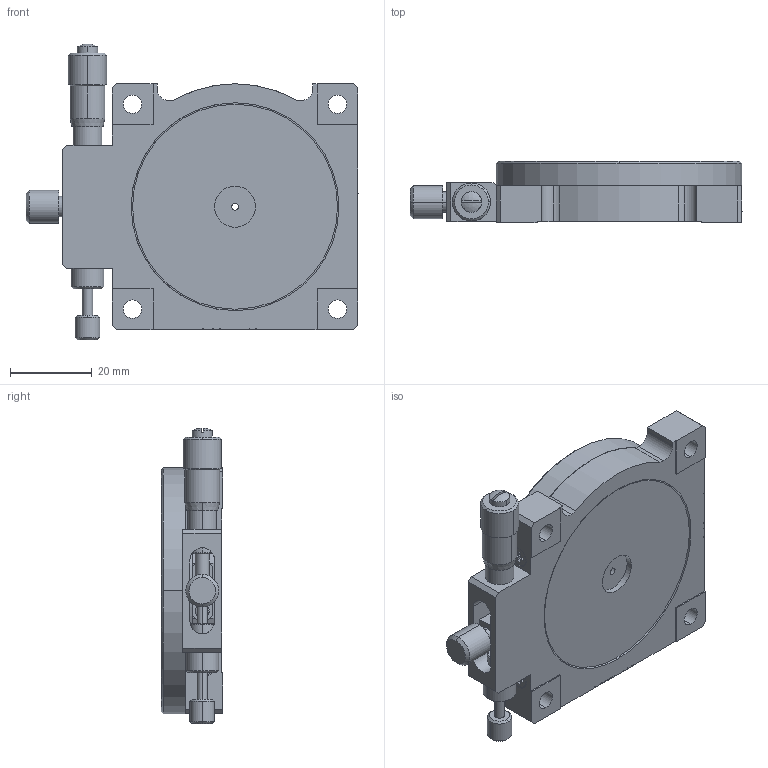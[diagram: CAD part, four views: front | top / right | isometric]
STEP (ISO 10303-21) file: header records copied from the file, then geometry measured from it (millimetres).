
FILE_DESCRIPTION (( 'STEP AP214' ), '1' );
FILE_NAME ('PR60-L.STEP', '2022-09-24T03:09:56', ( '' ), ( '' ), 'SwSTEP 2.0', 'SolidWorks 2017', '' );
FILE_SCHEMA (( 'AUTOMOTIVE_DESIGN' ));
Length unit declared in the file: millimetre
Products named in the file (5): RS60L-1; PR60-L; RS60L-2; RS60S-1; MT6.5-2-1
Assembly tree (4 placements, depth 2):
  PR60-L
    RS60S-1
    RS60L-1
    MT6.5-2-1
    RS60L-2
Bounding box: 81 x 15 x 72.18 mm (x, y, z)
Volume: 47524.8 mm3; surface area: 25953.4 mm2
Topology: 4 solids, 11 shells, 819 faces, 2099 edges, 1346 vertices
Faces by surface type: plane 397, cylinder 164, bspline 153, cone 88, torus 12, sphere 5
Entity records: 31610 total; most frequent: CARTESIAN_POINT 12091, ORIENTED_EDGE 4166, DIRECTION 3531, EDGE_CURVE 2083, VERTEX_POINT 1346, LINE 1195, VECTOR 1195, AXIS2_PLACEMENT_3D 1168
